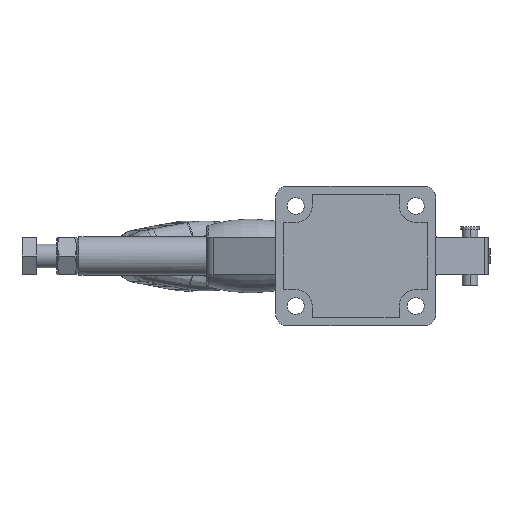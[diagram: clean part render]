
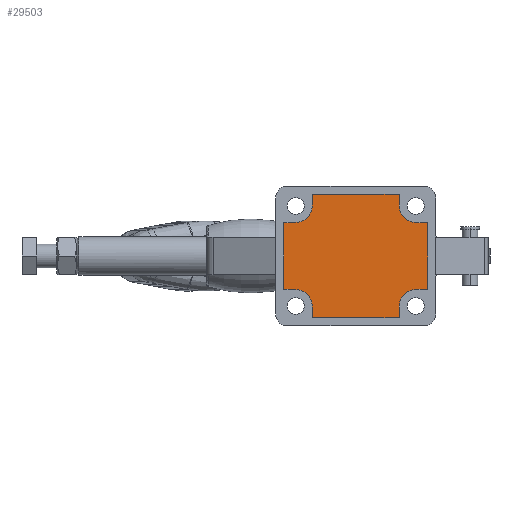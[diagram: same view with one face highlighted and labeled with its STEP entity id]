
A CAD part, front view. The second image highlights one B-rep face of the part: STEP entity #29503.
In plain terms, the highlighted planar face has unit normal (0, -1, 0).
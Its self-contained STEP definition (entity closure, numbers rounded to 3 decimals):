
#117 = LINE ( 'NONE', #9657, #36593 ) ;
#181 = EDGE_CURVE ( 'NONE', #44374, #18854, #31823, .T. ) ;
#258 = CARTESIAN_POINT ( 'NONE',  ( 30., 2., 25. ) ) ;
#475 = CARTESIAN_POINT ( 'NONE',  ( 21.75, 2., -25. ) ) ;
#595 = LINE ( 'NONE', #13750, #19372 ) ;
#1322 = CARTESIAN_POINT ( 'NONE',  ( 21.75, 2., -25. ) ) ;
#1444 = AXIS2_PLACEMENT_3D ( 'NONE', #44720, #23554, #2396 ) ;
#2396 = DIRECTION ( 'NONE',  ( 0., 0., -1. ) ) ;
#2539 = VERTEX_POINT ( 'NONE', #44301 ) ;
#3151 = DIRECTION ( 'NONE',  ( 0., 0., 1. ) ) ;
#3206 = CARTESIAN_POINT ( 'NONE',  ( -21.75, 2., -25. ) ) ;
#3395 = EDGE_CURVE ( 'NONE', #39382, #29705, #5239, .T. ) ;
#3772 = DIRECTION ( 'NONE',  ( 0., 0., -1. ) ) ;
#3923 = CARTESIAN_POINT ( 'NONE',  ( -30., 2., -25. ) ) ;
#4068 = DIRECTION ( 'NONE',  ( 0., 1., 0. ) ) ;
#4069 = VECTOR ( 'NONE', #32835, 1000. ) ;
#4410 = ORIENTED_EDGE ( 'NONE', *, *, #20974, .T. ) ;
#4777 = CARTESIAN_POINT ( 'NONE',  ( -36., 2., -16.75 ) ) ;
#4857 = DIRECTION ( 'NONE',  ( 0., 0., 1. ) ) ;
#5239 = LINE ( 'NONE', #18832, #6333 ) ;
#5643 = LINE ( 'NONE', #1322, #41062 ) ;
#5937 = EDGE_CURVE ( 'NONE', #23687, #39382, #7302, .T. ) ;
#5959 = VERTEX_POINT ( 'NONE', #42174 ) ;
#6288 = CIRCLE ( 'NONE', #19916, 8.25 ) ;
#6325 = ORIENTED_EDGE ( 'NONE', *, *, #13808, .T. ) ;
#6333 = VECTOR ( 'NONE', #15460, 1000. ) ;
#6434 = LINE ( 'NONE', #30535, #33556 ) ;
#6626 = EDGE_CURVE ( 'NONE', #39031, #24023, #117, .T. ) ;
#7302 = LINE ( 'NONE', #3206, #43834 ) ;
#7476 = DIRECTION ( 'NONE',  ( 0., 0., -1. ) ) ;
#9657 = CARTESIAN_POINT ( 'NONE',  ( -30., 2., 16.75 ) ) ;
#9981 = CARTESIAN_POINT ( 'NONE',  ( 36., 2., -16.75 ) ) ;
#10325 = VECTOR ( 'NONE', #30706, 1000. ) ;
#10384 = CARTESIAN_POINT ( 'NONE',  ( 30., 2., -16.75 ) ) ;
#11511 = CARTESIAN_POINT ( 'NONE',  ( 21.75, 2., 25. ) ) ;
#11651 = CARTESIAN_POINT ( 'NONE',  ( 30., 2., 16.75 ) ) ;
#12445 = PLANE ( 'NONE',  #1444 ) ;
#13128 = DIRECTION ( 'NONE',  ( 1., 0., 0. ) ) ;
#13220 = DIRECTION ( 'NONE',  ( -1., 0., 0. ) ) ;
#13689 = VECTOR ( 'NONE', #14779, 1000. ) ;
#13750 = CARTESIAN_POINT ( 'NONE',  ( -21.75, 2., 25. ) ) ;
#13808 = EDGE_CURVE ( 'NONE', #22130, #34492, #6434, .T. ) ;
#13875 = DIRECTION ( 'NONE',  ( 0., 0., -1. ) ) ;
#14779 = DIRECTION ( 'NONE',  ( 0., 0., 1. ) ) ;
#15237 = ORIENTED_EDGE ( 'NONE', *, *, #31827, .T. ) ;
#15400 = DIRECTION ( 'NONE',  ( 0., 1., 0. ) ) ;
#15441 = CIRCLE ( 'NONE', #16509, 8.25 ) ;
#15460 = DIRECTION ( 'NONE',  ( 1., 0., 0. ) ) ;
#16509 = AXIS2_PLACEMENT_3D ( 'NONE', #36555, #15400, #40143 ) ;
#16835 = CARTESIAN_POINT ( 'NONE',  ( -21.75, 2., -31. ) ) ;
#18832 = CARTESIAN_POINT ( 'NONE',  ( 21.75, 2., -31. ) ) ;
#18854 = VERTEX_POINT ( 'NONE', #21798 ) ;
#19118 = VECTOR ( 'NONE', #13128, 1000. ) ;
#19372 = VECTOR ( 'NONE', #45431, 1000. ) ;
#19405 = ORIENTED_EDGE ( 'NONE', *, *, #30647, .T. ) ;
#19916 = AXIS2_PLACEMENT_3D ( 'NONE', #3923, #28679, #7476 ) ;
#20239 = LINE ( 'NONE', #38003, #19118 ) ;
#20359 = CARTESIAN_POINT ( 'NONE',  ( -36., 2., 16.75 ) ) ;
#20381 = FACE_OUTER_BOUND ( 'NONE', #26324, .T. ) ;
#20974 = EDGE_CURVE ( 'NONE', #5959, #40656, #29305, .T. ) ;
#21761 = VERTEX_POINT ( 'NONE', #475 ) ;
#21798 = CARTESIAN_POINT ( 'NONE',  ( -30., 2., -16.75 ) ) ;
#21812 = LINE ( 'NONE', #4777, #41737 ) ;
#21829 = ORIENTED_EDGE ( 'NONE', *, *, #34076, .T. ) ;
#22128 = ORIENTED_EDGE ( 'NONE', *, *, #36711, .T. ) ;
#22130 = VERTEX_POINT ( 'NONE', #9981 ) ;
#22418 = VECTOR ( 'NONE', #28132, 1000. ) ;
#22746 = ORIENTED_EDGE ( 'NONE', *, *, #29272, .T. ) ;
#22894 = LINE ( 'NONE', #11651, #4069 ) ;
#23199 = ORIENTED_EDGE ( 'NONE', *, *, #181, .T. ) ;
#23554 = DIRECTION ( 'NONE',  ( 0., -1., 0. ) ) ;
#23687 = VERTEX_POINT ( 'NONE', #24284 ) ;
#24023 = VERTEX_POINT ( 'NONE', #20359 ) ;
#24157 = VERTEX_POINT ( 'NONE', #32106 ) ;
#24284 = CARTESIAN_POINT ( 'NONE',  ( -21.75, 2., -25. ) ) ;
#24337 = ORIENTED_EDGE ( 'NONE', *, *, #6626, .T. ) ;
#24460 = CARTESIAN_POINT ( 'NONE',  ( 21.75, 2., 25. ) ) ;
#24576 = CARTESIAN_POINT ( 'NONE',  ( -30., 2., -16.75 ) ) ;
#24963 = DIRECTION ( 'NONE',  ( 0., 1., 0. ) ) ;
#25207 = EDGE_CURVE ( 'NONE', #35000, #22130, #20239, .T. ) ;
#25270 = CARTESIAN_POINT ( 'NONE',  ( 30., 2., -25. ) ) ;
#26324 = EDGE_LOOP ( 'NONE', ( #40170, #33225, #22746, #24337, #21829, #23199, #44793, #34255, #39266, #22128, #15237, #30747, #6325, #31281, #4410, #19405 ) ) ;
#27143 = CARTESIAN_POINT ( 'NONE',  ( -21.75, 2., 31. ) ) ;
#28132 = DIRECTION ( 'NONE',  ( 1., 0., 0. ) ) ;
#28679 = DIRECTION ( 'NONE',  ( 0., 1., 0. ) ) ;
#28833 = DIRECTION ( 'NONE',  ( 0., 0., -1. ) ) ;
#29272 = EDGE_CURVE ( 'NONE', #24157, #39031, #15441, .T. ) ;
#29305 = CIRCLE ( 'NONE', #41264, 8.25 ) ;
#29503 = ADVANCED_FACE ( 'NONE', ( #20381 ), #12445, .T. ) ;
#29705 = VERTEX_POINT ( 'NONE', #39774 ) ;
#30535 = CARTESIAN_POINT ( 'NONE',  ( 36., 2., 16.75 ) ) ;
#30647 = EDGE_CURVE ( 'NONE', #40656, #41115, #31407, .T. ) ;
#30706 = DIRECTION ( 'NONE',  ( -1., 0., 0. ) ) ;
#30747 = ORIENTED_EDGE ( 'NONE', *, *, #25207, .T. ) ;
#31281 = ORIENTED_EDGE ( 'NONE', *, *, #34738, .T. ) ;
#31407 = LINE ( 'NONE', #11511, #13689 ) ;
#31664 = CARTESIAN_POINT ( 'NONE',  ( 21.75, 2., 31. ) ) ;
#31823 = LINE ( 'NONE', #24576, #22418 ) ;
#31827 = EDGE_CURVE ( 'NONE', #21761, #35000, #41302, .T. ) ;
#32106 = CARTESIAN_POINT ( 'NONE',  ( -21.75, 2., 25. ) ) ;
#32573 = AXIS2_PLACEMENT_3D ( 'NONE', #25270, #4068, #28833 ) ;
#32835 = DIRECTION ( 'NONE',  ( -1., 0., 0. ) ) ;
#32869 = CARTESIAN_POINT ( 'NONE',  ( 36., 2., 16.75 ) ) ;
#33225 = ORIENTED_EDGE ( 'NONE', *, *, #38248, .T. ) ;
#33556 = VECTOR ( 'NONE', #3151, 1000. ) ;
#34076 = EDGE_CURVE ( 'NONE', #24023, #44374, #21812, .T. ) ;
#34255 = ORIENTED_EDGE ( 'NONE', *, *, #5937, .T. ) ;
#34492 = VERTEX_POINT ( 'NONE', #32869 ) ;
#34694 = EDGE_CURVE ( 'NONE', #18854, #23687, #6288, .T. ) ;
#34738 = EDGE_CURVE ( 'NONE', #34492, #5959, #22894, .T. ) ;
#35000 = VERTEX_POINT ( 'NONE', #10384 ) ;
#36555 = CARTESIAN_POINT ( 'NONE',  ( -30., 2., 25. ) ) ;
#36593 = VECTOR ( 'NONE', #13220, 1000. ) ;
#36711 = EDGE_CURVE ( 'NONE', #29705, #21761, #5643, .T. ) ;
#37771 = CARTESIAN_POINT ( 'NONE',  ( -36., 2., -16.75 ) ) ;
#38003 = CARTESIAN_POINT ( 'NONE',  ( 30., 2., -16.75 ) ) ;
#38248 = EDGE_CURVE ( 'NONE', #2539, #24157, #595, .T. ) ;
#38532 = LINE ( 'NONE', #27143, #10325 ) ;
#39031 = VERTEX_POINT ( 'NONE', #45024 ) ;
#39266 = ORIENTED_EDGE ( 'NONE', *, *, #3395, .T. ) ;
#39382 = VERTEX_POINT ( 'NONE', #16835 ) ;
#39774 = CARTESIAN_POINT ( 'NONE',  ( 21.75, 2., -31. ) ) ;
#40143 = DIRECTION ( 'NONE',  ( 0., 0., -1. ) ) ;
#40170 = ORIENTED_EDGE ( 'NONE', *, *, #43034, .T. ) ;
#40656 = VERTEX_POINT ( 'NONE', #24460 ) ;
#41062 = VECTOR ( 'NONE', #4857, 1000. ) ;
#41115 = VERTEX_POINT ( 'NONE', #31664 ) ;
#41264 = AXIS2_PLACEMENT_3D ( 'NONE', #258, #24963, #3772 ) ;
#41302 = CIRCLE ( 'NONE', #32573, 8.25 ) ;
#41737 = VECTOR ( 'NONE', #43585, 1000. ) ;
#42174 = CARTESIAN_POINT ( 'NONE',  ( 30., 2., 16.75 ) ) ;
#43034 = EDGE_CURVE ( 'NONE', #41115, #2539, #38532, .T. ) ;
#43585 = DIRECTION ( 'NONE',  ( 0., 0., -1. ) ) ;
#43834 = VECTOR ( 'NONE', #13875, 1000. ) ;
#44301 = CARTESIAN_POINT ( 'NONE',  ( -21.75, 2., 31. ) ) ;
#44374 = VERTEX_POINT ( 'NONE', #37771 ) ;
#44720 = CARTESIAN_POINT ( 'NONE',  ( 30., 2., 25. ) ) ;
#44793 = ORIENTED_EDGE ( 'NONE', *, *, #34694, .T. ) ;
#45024 = CARTESIAN_POINT ( 'NONE',  ( -30., 2., 16.75 ) ) ;
#45431 = DIRECTION ( 'NONE',  ( 0., 0., -1. ) ) ;
